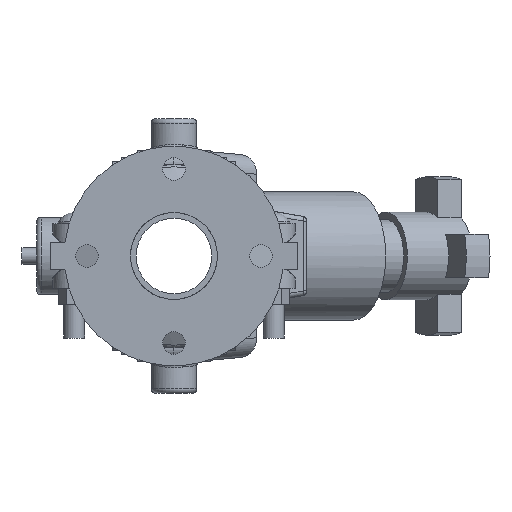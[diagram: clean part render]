
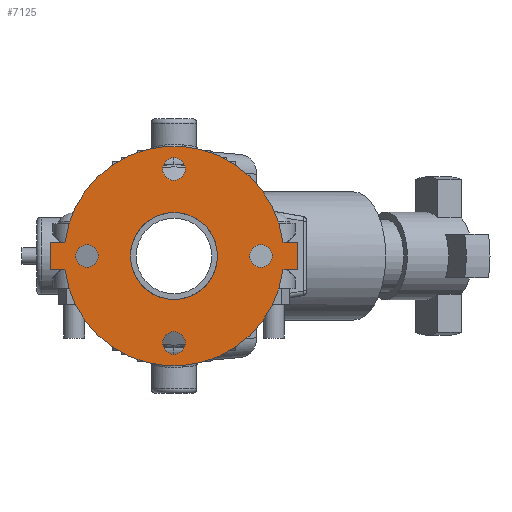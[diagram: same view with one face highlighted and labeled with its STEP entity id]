
A CAD part, front view. The second image highlights one B-rep face of the part: STEP entity #7125.
In plain terms, the highlighted planar face has unit normal (0, -1, 0) as drawn and (0, 0, 1) by its records, which use the part's own axes.
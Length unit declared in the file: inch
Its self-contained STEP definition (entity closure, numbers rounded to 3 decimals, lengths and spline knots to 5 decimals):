
#316=FACE_BOUND('',#976,.T.);
#317=FACE_BOUND('',#977,.T.);
#318=FACE_BOUND('',#978,.T.);
#319=FACE_BOUND('',#979,.T.);
#320=FACE_BOUND('',#980,.T.);
#385=PLANE('',#7741);
#574=FACE_OUTER_BOUND('',#975,.T.);
#975=EDGE_LOOP('',(#4560,#4561,#4562,#4563,#4564,#4565,#4566,#4567));
#976=EDGE_LOOP('',(#4568));
#977=EDGE_LOOP('',(#4569));
#978=EDGE_LOOP('',(#4570));
#979=EDGE_LOOP('',(#4571));
#980=EDGE_LOOP('',(#4572,#4573));
#1435=LINE('',#10769,#1919);
#1436=LINE('',#10772,#1920);
#1439=LINE('',#10777,#1923);
#1440=LINE('',#10780,#1924);
#1442=LINE('',#10783,#1926);
#1443=LINE('',#10785,#1927);
#1919=VECTOR('',#8615,0.3937);
#1920=VECTOR('',#8618,0.3937);
#1923=VECTOR('',#8623,0.3937);
#1924=VECTOR('',#8626,0.3937);
#1926=VECTOR('',#8630,0.3937);
#1927=VECTOR('',#8633,0.3937);
#2387=CIRCLE('',#7712,0.3125);
#2389=CIRCLE('',#7715,0.3125);
#2391=CIRCLE('',#7718,0.3125);
#2393=CIRCLE('',#7721,0.3125);
#2399=CIRCLE('',#7729,3.);
#2400=CIRCLE('',#7731,1.1875);
#2401=CIRCLE('',#7732,1.1875);
#2402=CIRCLE('',#7734,3.);
#2776=VERTEX_POINT('',#10704);
#2778=VERTEX_POINT('',#10710);
#2780=VERTEX_POINT('',#10716);
#2782=VERTEX_POINT('',#10722);
#2794=VERTEX_POINT('',#10749);
#2795=VERTEX_POINT('',#10751);
#2796=VERTEX_POINT('',#10755);
#2797=VERTEX_POINT('',#10757);
#2798=VERTEX_POINT('',#10761);
#2799=VERTEX_POINT('',#10763);
#2800=VERTEX_POINT('',#10767);
#2801=VERTEX_POINT('',#10771);
#2802=VERTEX_POINT('',#10775);
#2803=VERTEX_POINT('',#10779);
#3458=EDGE_CURVE('',#2776,#2776,#2387,.T.);
#3461=EDGE_CURVE('',#2778,#2778,#2389,.T.);
#3464=EDGE_CURVE('',#2780,#2780,#2391,.T.);
#3467=EDGE_CURVE('',#2782,#2782,#2393,.T.);
#3482=EDGE_CURVE('',#2794,#2795,#2399,.T.);
#3484=EDGE_CURVE('',#2797,#2796,#2400,.T.);
#3485=EDGE_CURVE('',#2796,#2797,#2401,.T.);
#3487=EDGE_CURVE('',#2799,#2798,#2402,.T.);
#3490=EDGE_CURVE('',#2795,#2800,#1435,.T.);
#3491=EDGE_CURVE('',#2801,#2799,#1436,.T.);
#3494=EDGE_CURVE('',#2798,#2802,#1439,.T.);
#3495=EDGE_CURVE('',#2803,#2794,#1440,.T.);
#3497=EDGE_CURVE('',#2802,#2803,#1442,.T.);
#3498=EDGE_CURVE('',#2800,#2801,#1443,.T.);
#4560=ORIENTED_EDGE('',*,*,#3494,.T.);
#4561=ORIENTED_EDGE('',*,*,#3497,.T.);
#4562=ORIENTED_EDGE('',*,*,#3495,.T.);
#4563=ORIENTED_EDGE('',*,*,#3482,.T.);
#4564=ORIENTED_EDGE('',*,*,#3490,.T.);
#4565=ORIENTED_EDGE('',*,*,#3498,.T.);
#4566=ORIENTED_EDGE('',*,*,#3491,.T.);
#4567=ORIENTED_EDGE('',*,*,#3487,.T.);
#4568=ORIENTED_EDGE('',*,*,#3458,.T.);
#4569=ORIENTED_EDGE('',*,*,#3461,.T.);
#4570=ORIENTED_EDGE('',*,*,#3464,.T.);
#4571=ORIENTED_EDGE('',*,*,#3467,.T.);
#4572=ORIENTED_EDGE('',*,*,#3484,.T.);
#4573=ORIENTED_EDGE('',*,*,#3485,.T.);
#7125=ADVANCED_FACE('',(#574,#316,#317,#318,#319,#320),#385,.T.);
#7712=AXIS2_PLACEMENT_3D('',#10705,#8551,#8552);
#7715=AXIS2_PLACEMENT_3D('',#10711,#8558,#8559);
#7718=AXIS2_PLACEMENT_3D('',#10717,#8565,#8566);
#7721=AXIS2_PLACEMENT_3D('',#10723,#8572,#8573);
#7729=AXIS2_PLACEMENT_3D('',#10753,#8597,#8598);
#7731=AXIS2_PLACEMENT_3D('',#10758,#8602,#8603);
#7732=AXIS2_PLACEMENT_3D('',#10759,#8604,#8605);
#7734=AXIS2_PLACEMENT_3D('',#10764,#8609,#8610);
#7741=AXIS2_PLACEMENT_3D('',#10786,#8634,#8635);
#8551=DIRECTION('center_axis',(0.,0.,-1.));
#8552=DIRECTION('ref_axis',(0.,1.,0.));
#8558=DIRECTION('center_axis',(0.,0.,-1.));
#8559=DIRECTION('ref_axis',(1.,0.,0.));
#8565=DIRECTION('center_axis',(0.,0.,-1.));
#8566=DIRECTION('ref_axis',(0.,-1.,0.));
#8572=DIRECTION('center_axis',(0.,0.,-1.));
#8573=DIRECTION('ref_axis',(-1.,0.,0.));
#8597=DIRECTION('center_axis',(0.,0.,1.));
#8598=DIRECTION('ref_axis',(-1.,0.,0.));
#8602=DIRECTION('center_axis',(0.,0.,-1.));
#8603=DIRECTION('ref_axis',(-1.,0.,0.));
#8604=DIRECTION('center_axis',(0.,0.,-1.));
#8605=DIRECTION('ref_axis',(-1.,0.,0.));
#8609=DIRECTION('center_axis',(0.,0.,1.));
#8610=DIRECTION('ref_axis',(-1.,0.,0.));
#8615=DIRECTION('',(0.,1.,0.));
#8618=DIRECTION('',(0.,-1.,0.));
#8623=DIRECTION('',(0.,-1.,0.));
#8626=DIRECTION('',(0.,1.,0.));
#8630=DIRECTION('',(1.,0.,0.));
#8633=DIRECTION('',(-1.,0.,0.));
#8634=DIRECTION('center_axis',(0.,0.,1.));
#8635=DIRECTION('ref_axis',(1.,0.,0.));
#10704=CARTESIAN_POINT('',(0.,2.0625,0.375));
#10705=CARTESIAN_POINT('Origin',(0.,2.375,0.375));
#10710=CARTESIAN_POINT('',(2.0625,0.,0.375));
#10711=CARTESIAN_POINT('Origin',(2.375,0.,0.375));
#10716=CARTESIAN_POINT('',(0.,-2.0625,0.375));
#10717=CARTESIAN_POINT('Origin',(0.,-2.375,0.375));
#10722=CARTESIAN_POINT('',(-2.0625,0.,0.375));
#10723=CARTESIAN_POINT('Origin',(-2.375,0.,0.375));
#10749=CARTESIAN_POINT('',(0.375,-2.97647,0.375));
#10751=CARTESIAN_POINT('',(0.375,2.97647,0.375));
#10753=CARTESIAN_POINT('Origin',(0.,0.,0.375));
#10755=CARTESIAN_POINT('',(1.1875,0.,0.375));
#10757=CARTESIAN_POINT('',(0.375,1.12673,0.375));
#10758=CARTESIAN_POINT('Origin',(0.,0.,0.375));
#10759=CARTESIAN_POINT('Origin',(0.,0.,0.375));
#10761=CARTESIAN_POINT('',(-0.375,-2.97647,0.375));
#10763=CARTESIAN_POINT('',(-0.375,2.97647,0.375));
#10764=CARTESIAN_POINT('Origin',(0.,0.,0.375));
#10767=CARTESIAN_POINT('',(0.375,3.375,0.375));
#10769=CARTESIAN_POINT('',(0.375,3.375,0.375));
#10771=CARTESIAN_POINT('',(-0.375,3.375,0.375));
#10772=CARTESIAN_POINT('',(-0.375,-3.375,0.375));
#10775=CARTESIAN_POINT('',(-0.375,-3.375,0.375));
#10777=CARTESIAN_POINT('',(-0.375,-3.375,0.375));
#10779=CARTESIAN_POINT('',(0.375,-3.375,0.375));
#10780=CARTESIAN_POINT('',(0.375,3.375,0.375));
#10783=CARTESIAN_POINT('',(0.375,-3.375,0.375));
#10785=CARTESIAN_POINT('',(-0.375,3.375,0.375));
#10786=CARTESIAN_POINT('Origin',(0.,0.,0.375));
